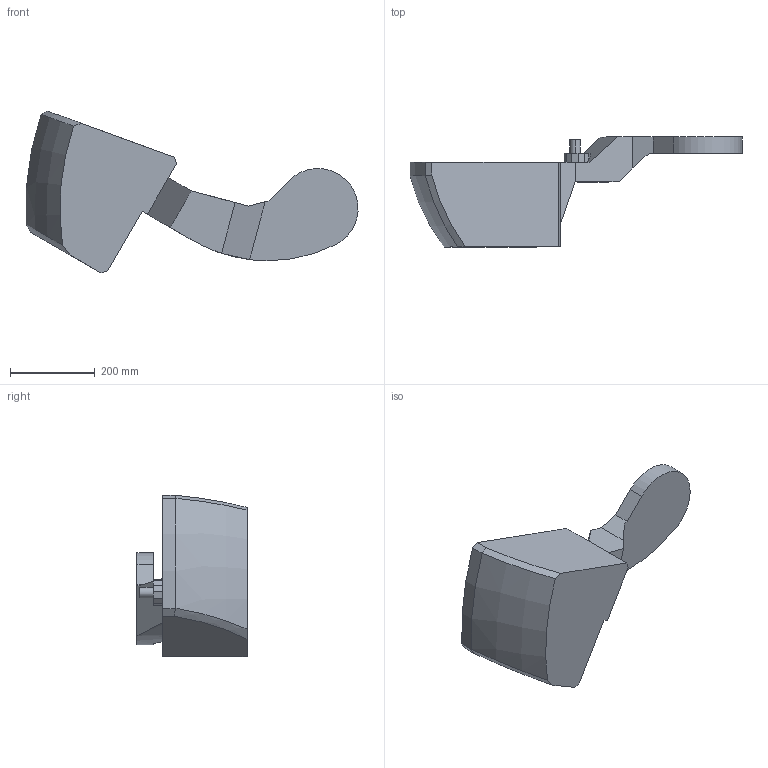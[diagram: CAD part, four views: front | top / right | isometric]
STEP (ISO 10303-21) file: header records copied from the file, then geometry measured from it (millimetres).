
FILE_DESCRIPTION (( 'STEP AP214' ), '1' );
FILE_NAME ('IRB4400_60_m2000_rev1_01-4.STEP', '2001-11-21T06:43:07', ( 'Jonas Eriksson' ), ( 'Evotech Engineering AB' ), 'SwSTEP 2.0', 'SolidWorks 2001287', '' );
FILE_SCHEMA (( 'AUTOMOTIVE_DESIGN' ));
Length unit declared in the file: millimetre
Products named in the file (1): IRB4400_60_m2000_rev1_01-4
Bounding box: 785.81 x 260.5 x 382.41 mm (x, y, z)
Volume: 19392434.3 mm3; surface area: 579194 mm2
Topology: 1 solids, 1 shells, 44 faces, 120 edges, 79 vertices
Faces by surface type: plane 35, cylinder 6, bspline 2, torus 1
Entity records: 1599 total; most frequent: CARTESIAN_POINT 475, ORIENTED_EDGE 240, DIRECTION 210, EDGE_CURVE 120, LINE 94, VECTOR 94, VERTEX_POINT 79, AXIS2_PLACEMENT_3D 58
